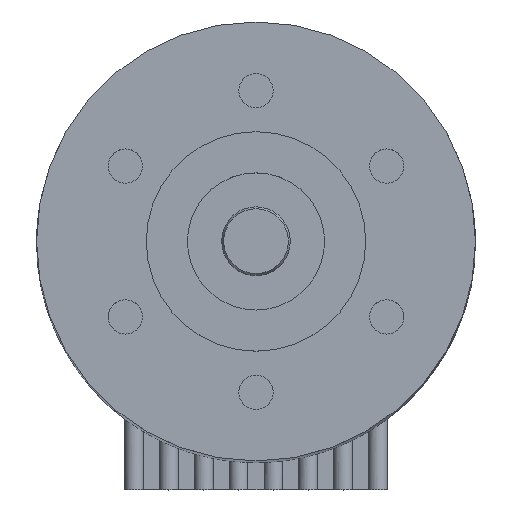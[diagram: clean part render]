
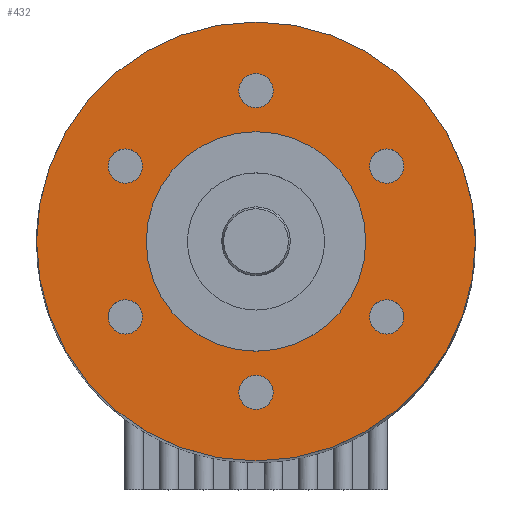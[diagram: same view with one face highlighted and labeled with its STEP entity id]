
A CAD part, top view. The second image highlights one B-rep face of the part: STEP entity #432.
In plain terms, the highlighted planar face has unit normal (0, 0, 1).
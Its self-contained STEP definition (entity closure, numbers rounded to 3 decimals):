
#88=PLANE('',#2113);
#113=FACE_BOUND('',#697,.T.);
#114=FACE_BOUND('',#698,.T.);
#115=FACE_BOUND('',#699,.T.);
#116=FACE_BOUND('',#700,.T.);
#117=FACE_BOUND('',#701,.T.);
#118=FACE_BOUND('',#702,.T.);
#119=FACE_BOUND('',#703,.T.);
#120=FACE_BOUND('',#704,.T.);
#432=ADVANCED_FACE('',(#113,#114,#115,#116,#117,#118,#119,#120),#88,.T.);
#697=EDGE_LOOP('',(#1107));
#698=EDGE_LOOP('',(#1108));
#699=EDGE_LOOP('',(#1109));
#700=EDGE_LOOP('',(#1110));
#701=EDGE_LOOP('',(#1111));
#702=EDGE_LOOP('',(#1112));
#703=EDGE_LOOP('',(#1113));
#704=EDGE_LOOP('',(#1114));
#1107=ORIENTED_EDGE('',*,*,#1789,.T.);
#1108=ORIENTED_EDGE('',*,*,#1790,.T.);
#1109=ORIENTED_EDGE('',*,*,#1791,.T.);
#1110=ORIENTED_EDGE('',*,*,#1792,.T.);
#1111=ORIENTED_EDGE('',*,*,#1793,.T.);
#1112=ORIENTED_EDGE('',*,*,#1794,.T.);
#1113=ORIENTED_EDGE('',*,*,#1795,.F.);
#1114=ORIENTED_EDGE('',*,*,#1787,.F.);
#1537=VERTEX_POINT('',#3564);
#1539=VERTEX_POINT('',#3569);
#1540=VERTEX_POINT('',#3571);
#1541=VERTEX_POINT('',#3573);
#1542=VERTEX_POINT('',#3575);
#1543=VERTEX_POINT('',#3577);
#1544=VERTEX_POINT('',#3579);
#1545=VERTEX_POINT('',#3581);
#1787=EDGE_CURVE('',#1537,#1537,#1919,.T.);
#1789=EDGE_CURVE('',#1539,#1539,#1921,.T.);
#1790=EDGE_CURVE('',#1540,#1540,#1922,.T.);
#1791=EDGE_CURVE('',#1541,#1541,#1923,.T.);
#1792=EDGE_CURVE('',#1542,#1542,#1924,.T.);
#1793=EDGE_CURVE('',#1543,#1543,#1925,.T.);
#1794=EDGE_CURVE('',#1544,#1544,#1926,.T.);
#1795=EDGE_CURVE('',#1545,#1545,#1927,.T.);
#1919=CIRCLE('',#2103,16.);
#1921=CIRCLE('',#2106,1.25);
#1922=CIRCLE('',#2107,1.25);
#1923=CIRCLE('',#2108,1.25);
#1924=CIRCLE('',#2109,1.25);
#1925=CIRCLE('',#2110,1.25);
#1926=CIRCLE('',#2111,1.25);
#1927=CIRCLE('',#2112,8.);
#2103=AXIS2_PLACEMENT_3D('',#3563,#2581,#2582);
#2106=AXIS2_PLACEMENT_3D('',#3568,#2587,#2588);
#2107=AXIS2_PLACEMENT_3D('',#3570,#2589,#2590);
#2108=AXIS2_PLACEMENT_3D('',#3572,#2591,#2592);
#2109=AXIS2_PLACEMENT_3D('',#3574,#2593,#2594);
#2110=AXIS2_PLACEMENT_3D('',#3576,#2595,#2596);
#2111=AXIS2_PLACEMENT_3D('',#3578,#2597,#2598);
#2112=AXIS2_PLACEMENT_3D('',#3580,#2599,#2600);
#2113=AXIS2_PLACEMENT_3D('',#3582,#2601,#2602);
#2581=DIRECTION('',(0.,0.,-1.));
#2582=DIRECTION('',(-1.,0.,0.));
#2587=DIRECTION('',(0.,0.,-1.));
#2588=DIRECTION('',(-0.5,0.866,0.));
#2589=DIRECTION('',(0.,0.,-1.));
#2590=DIRECTION('',(0.5,0.866,0.));
#2591=DIRECTION('',(0.,0.,-1.));
#2592=DIRECTION('',(1.,0.,0.));
#2593=DIRECTION('',(0.,0.,-1.));
#2594=DIRECTION('',(0.5,-0.866,0.));
#2595=DIRECTION('',(0.,0.,-1.));
#2596=DIRECTION('',(-0.5,-0.866,0.));
#2597=DIRECTION('',(0.,0.,-1.));
#2598=DIRECTION('',(-1.,0.,0.));
#2599=DIRECTION('',(0.,0.,1.));
#2600=DIRECTION('',(1.,0.,0.));
#2601=DIRECTION('',(0.,0.,1.));
#2602=DIRECTION('',(1.,0.,0.));
#3563=CARTESIAN_POINT('',(0.,0.,0.));
#3564=CARTESIAN_POINT('',(-16.,0.,0.));
#3568=CARTESIAN_POINT('',(9.526,5.5,0.));
#3569=CARTESIAN_POINT('',(8.901,6.583,0.));
#3570=CARTESIAN_POINT('',(9.526,-5.5,0.));
#3571=CARTESIAN_POINT('',(10.151,-4.417,0.));
#3572=CARTESIAN_POINT('',(0.,-11.,0.));
#3573=CARTESIAN_POINT('',(1.25,-11.,0.));
#3574=CARTESIAN_POINT('',(-9.526,-5.5,0.));
#3575=CARTESIAN_POINT('',(-8.901,-6.583,0.));
#3576=CARTESIAN_POINT('',(-9.526,5.5,0.));
#3577=CARTESIAN_POINT('',(-10.151,4.417,0.));
#3578=CARTESIAN_POINT('',(0.,11.,0.));
#3579=CARTESIAN_POINT('',(-1.25,11.,0.));
#3580=CARTESIAN_POINT('',(0.,0.,0.));
#3581=CARTESIAN_POINT('',(8.,0.,0.));
#3582=CARTESIAN_POINT('',(0.,0.,0.));
